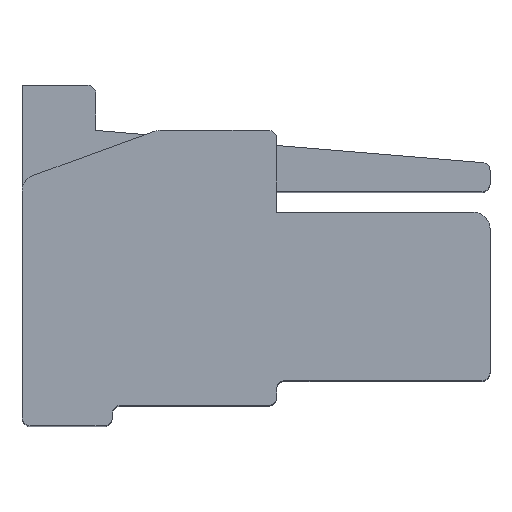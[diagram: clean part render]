
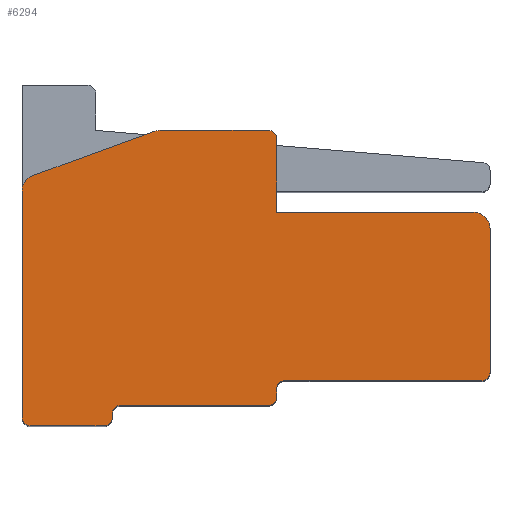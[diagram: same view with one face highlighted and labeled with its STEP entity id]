
A CAD part, top view. The second image highlights one B-rep face of the part: STEP entity #6294.
In plain terms, the highlighted planar face has unit normal (0, 0, 1).
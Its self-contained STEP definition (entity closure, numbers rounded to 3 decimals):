
#158=PLANE('',#6766);
#379=FACE_OUTER_BOUND('',#718,.T.);
#718=EDGE_LOOP('',(#4493,#4494,#4495,#4496,#4497,#4498,#4499,#4500,#4501,
#4502,#4503,#4504,#4505,#4506,#4507,#4508,#4509,#4510,#4511,#4512,#4513));
#1101=LINE('',#9445,#1805);
#1160=LINE('',#9597,#1864);
#1163=LINE('',#9603,#1867);
#1164=LINE('',#9607,#1868);
#1165=LINE('',#9612,#1869);
#1166=LINE('',#9616,#1870);
#1167=LINE('',#9620,#1871);
#1168=LINE('',#9624,#1872);
#1169=LINE('',#9628,#1873);
#1170=LINE('',#9632,#1874);
#1171=LINE('',#9635,#1875);
#1805=VECTOR('',#7530,10.);
#1864=VECTOR('',#7659,10.);
#1867=VECTOR('',#7664,10.);
#1868=VECTOR('',#7667,10.);
#1869=VECTOR('',#7672,10.);
#1870=VECTOR('',#7675,10.);
#1871=VECTOR('',#7678,10.);
#1872=VECTOR('',#7681,10.);
#1873=VECTOR('',#7684,10.);
#1874=VECTOR('',#7687,10.);
#1875=VECTOR('',#7690,10.);
#2451=CIRCLE('',#6764,0.1);
#2452=CIRCLE('',#6767,0.2);
#2453=CIRCLE('',#6768,0.2);
#2454=CIRCLE('',#6769,0.1);
#2455=CIRCLE('',#6770,0.1);
#2456=CIRCLE('',#6771,0.1);
#2457=CIRCLE('',#6772,0.1);
#2458=CIRCLE('',#6773,0.1);
#2459=CIRCLE('',#6774,0.1);
#2460=CIRCLE('',#6775,0.2);
#2713=VERTEX_POINT('',#9441);
#2715=VERTEX_POINT('',#9444);
#2771=VERTEX_POINT('',#9590);
#2772=VERTEX_POINT('',#9592);
#2773=VERTEX_POINT('',#9596);
#2775=VERTEX_POINT('',#9602);
#2776=VERTEX_POINT('',#9604);
#2777=VERTEX_POINT('',#9606);
#2778=VERTEX_POINT('',#9609);
#2779=VERTEX_POINT('',#9611);
#2780=VERTEX_POINT('',#9613);
#2781=VERTEX_POINT('',#9615);
#2782=VERTEX_POINT('',#9617);
#2783=VERTEX_POINT('',#9619);
#2784=VERTEX_POINT('',#9621);
#2785=VERTEX_POINT('',#9623);
#2786=VERTEX_POINT('',#9625);
#2787=VERTEX_POINT('',#9627);
#2788=VERTEX_POINT('',#9629);
#2789=VERTEX_POINT('',#9631);
#2790=VERTEX_POINT('',#9633);
#3369=EDGE_CURVE('',#2715,#2713,#1101,.T.);
#3444=EDGE_CURVE('',#2771,#2772,#2451,.T.);
#3446=EDGE_CURVE('',#2773,#2772,#1160,.T.);
#3449=EDGE_CURVE('',#2771,#2775,#1163,.T.);
#3450=EDGE_CURVE('',#2776,#2775,#2452,.T.);
#3451=EDGE_CURVE('',#2776,#2777,#1164,.T.);
#3452=EDGE_CURVE('',#2715,#2777,#2453,.T.);
#3453=EDGE_CURVE('',#2778,#2713,#2454,.T.);
#3454=EDGE_CURVE('',#2778,#2779,#1165,.T.);
#3455=EDGE_CURVE('',#2780,#2779,#2455,.T.);
#3456=EDGE_CURVE('',#2780,#2781,#1166,.T.);
#3457=EDGE_CURVE('',#2782,#2781,#2456,.T.);
#3458=EDGE_CURVE('',#2782,#2783,#1167,.T.);
#3459=EDGE_CURVE('',#2784,#2783,#2457,.T.);
#3460=EDGE_CURVE('',#2784,#2785,#1168,.T.);
#3461=EDGE_CURVE('',#2786,#2785,#2458,.T.);
#3462=EDGE_CURVE('',#2786,#2787,#1169,.T.);
#3463=EDGE_CURVE('',#2788,#2787,#2459,.T.);
#3464=EDGE_CURVE('',#2788,#2789,#1170,.T.);
#3465=EDGE_CURVE('',#2790,#2789,#2460,.T.);
#3466=EDGE_CURVE('',#2790,#2773,#1171,.T.);
#4493=ORIENTED_EDGE('',*,*,#3444,.F.);
#4494=ORIENTED_EDGE('',*,*,#3449,.T.);
#4495=ORIENTED_EDGE('',*,*,#3450,.F.);
#4496=ORIENTED_EDGE('',*,*,#3451,.T.);
#4497=ORIENTED_EDGE('',*,*,#3452,.F.);
#4498=ORIENTED_EDGE('',*,*,#3369,.T.);
#4499=ORIENTED_EDGE('',*,*,#3453,.F.);
#4500=ORIENTED_EDGE('',*,*,#3454,.T.);
#4501=ORIENTED_EDGE('',*,*,#3455,.F.);
#4502=ORIENTED_EDGE('',*,*,#3456,.T.);
#4503=ORIENTED_EDGE('',*,*,#3457,.F.);
#4504=ORIENTED_EDGE('',*,*,#3458,.T.);
#4505=ORIENTED_EDGE('',*,*,#3459,.F.);
#4506=ORIENTED_EDGE('',*,*,#3460,.T.);
#4507=ORIENTED_EDGE('',*,*,#3461,.F.);
#4508=ORIENTED_EDGE('',*,*,#3462,.T.);
#4509=ORIENTED_EDGE('',*,*,#3463,.F.);
#4510=ORIENTED_EDGE('',*,*,#3464,.T.);
#4511=ORIENTED_EDGE('',*,*,#3465,.F.);
#4512=ORIENTED_EDGE('',*,*,#3466,.T.);
#4513=ORIENTED_EDGE('',*,*,#3446,.T.);
#6294=ADVANCED_FACE('',(#379),#158,.T.);
#6764=AXIS2_PLACEMENT_3D('',#9593,#7654,#7655);
#6766=AXIS2_PLACEMENT_3D('',#9601,#7662,#7663);
#6767=AXIS2_PLACEMENT_3D('',#9605,#7665,#7666);
#6768=AXIS2_PLACEMENT_3D('',#9608,#7668,#7669);
#6769=AXIS2_PLACEMENT_3D('',#9610,#7670,#7671);
#6770=AXIS2_PLACEMENT_3D('',#9614,#7673,#7674);
#6771=AXIS2_PLACEMENT_3D('',#9618,#7676,#7677);
#6772=AXIS2_PLACEMENT_3D('',#9622,#7679,#7680);
#6773=AXIS2_PLACEMENT_3D('',#9626,#7682,#7683);
#6774=AXIS2_PLACEMENT_3D('',#9630,#7685,#7686);
#6775=AXIS2_PLACEMENT_3D('',#9634,#7688,#7689);
#7530=DIRECTION('',(0.,-1.,0.));
#7654=DIRECTION('center_axis',(0.,0.,-1.));
#7655=DIRECTION('ref_axis',(0.707,0.707,0.));
#7659=DIRECTION('',(0.,1.,0.));
#7662=DIRECTION('center_axis',(0.,0.,1.));
#7663=DIRECTION('ref_axis',(1.,0.,0.));
#7664=DIRECTION('',(-1.,0.,0.));
#7665=DIRECTION('center_axis',(0.,0.,-1.));
#7666=DIRECTION('ref_axis',(-0.174,0.985,0.));
#7667=DIRECTION('',(-0.94,-0.342,0.));
#7668=DIRECTION('center_axis',(0.,0.,-1.));
#7669=DIRECTION('ref_axis',(-0.819,0.574,0.));
#7670=DIRECTION('center_axis',(0.,0.,-1.));
#7671=DIRECTION('ref_axis',(-0.707,-0.707,0.));
#7672=DIRECTION('',(1.,0.,0.));
#7673=DIRECTION('center_axis',(0.,0.,-1.));
#7674=DIRECTION('ref_axis',(0.707,-0.707,0.));
#7675=DIRECTION('',(0.,1.,0.));
#7676=DIRECTION('center_axis',(0.,0.,1.));
#7677=DIRECTION('ref_axis',(-0.707,0.707,0.));
#7678=DIRECTION('',(1.,0.,0.));
#7679=DIRECTION('center_axis',(0.,0.,-1.));
#7680=DIRECTION('ref_axis',(0.707,-0.707,0.));
#7681=DIRECTION('',(0.,1.,0.));
#7682=DIRECTION('center_axis',(0.,0.,1.));
#7683=DIRECTION('ref_axis',(-0.707,0.707,0.));
#7684=DIRECTION('',(1.,0.,0.));
#7685=DIRECTION('center_axis',(0.,0.,-1.));
#7686=DIRECTION('ref_axis',(0.707,-0.707,0.));
#7687=DIRECTION('',(0.,1.,0.));
#7688=DIRECTION('center_axis',(0.,0.,-1.));
#7689=DIRECTION('ref_axis',(0.707,0.707,0.));
#7690=DIRECTION('',(-1.,0.,0.));
#9441=CARTESIAN_POINT('',(0.,0.1,3.125));
#9444=CARTESIAN_POINT('',(0.,2.86,3.125));
#9445=CARTESIAN_POINT('',(0.,0.,3.125));
#9590=CARTESIAN_POINT('',(3.,3.6,3.125));
#9592=CARTESIAN_POINT('',(3.1,3.5,3.125));
#9593=CARTESIAN_POINT('Origin',(3.,3.5,3.125));
#9596=CARTESIAN_POINT('',(3.1,2.6,3.125));
#9597=CARTESIAN_POINT('',(3.1,2.338,3.125));
#9601=CARTESIAN_POINT('Origin',(2.85,2.075,3.125));
#9602=CARTESIAN_POINT('',(1.685,3.6,3.125));
#9603=CARTESIAN_POINT('',(2.975,3.6,3.125));
#9604=CARTESIAN_POINT('',(1.617,3.588,3.125));
#9605=CARTESIAN_POINT('Origin',(1.685,3.4,3.125));
#9606=CARTESIAN_POINT('',(0.132,3.048,3.125));
#9607=CARTESIAN_POINT('',(1.935,3.704,3.125));
#9608=CARTESIAN_POINT('Origin',(0.2,2.86,3.125));
#9609=CARTESIAN_POINT('',(0.1,0.,3.125));
#9610=CARTESIAN_POINT('Origin',(0.1,0.1,3.125));
#9611=CARTESIAN_POINT('',(1.,0.,3.125));
#9612=CARTESIAN_POINT('',(5.7,0.,3.125));
#9613=CARTESIAN_POINT('',(1.1,0.1,3.125));
#9614=CARTESIAN_POINT('Origin',(1.,0.1,3.125));
#9615=CARTESIAN_POINT('',(1.1,0.15,3.125));
#9616=CARTESIAN_POINT('',(1.1,1.038,3.125));
#9617=CARTESIAN_POINT('',(1.2,0.25,3.125));
#9618=CARTESIAN_POINT('Origin',(1.2,0.15,3.125));
#9619=CARTESIAN_POINT('',(3.,0.25,3.125));
#9620=CARTESIAN_POINT('',(1.975,0.25,3.125));
#9621=CARTESIAN_POINT('',(3.1,0.35,3.125));
#9622=CARTESIAN_POINT('Origin',(3.,0.35,3.125));
#9623=CARTESIAN_POINT('',(3.1,0.45,3.125));
#9624=CARTESIAN_POINT('',(3.1,1.163,3.125));
#9625=CARTESIAN_POINT('',(3.2,0.55,3.125));
#9626=CARTESIAN_POINT('Origin',(3.2,0.45,3.125));
#9627=CARTESIAN_POINT('',(5.6,0.55,3.125));
#9628=CARTESIAN_POINT('',(2.975,0.55,3.125));
#9629=CARTESIAN_POINT('',(5.7,0.65,3.125));
#9630=CARTESIAN_POINT('Origin',(5.6,0.65,3.125));
#9631=CARTESIAN_POINT('',(5.7,2.4,3.125));
#9632=CARTESIAN_POINT('',(5.7,4.15,3.125));
#9633=CARTESIAN_POINT('',(5.5,2.6,3.125));
#9634=CARTESIAN_POINT('Origin',(5.5,2.4,3.125));
#9635=CARTESIAN_POINT('',(4.275,2.6,3.125));
